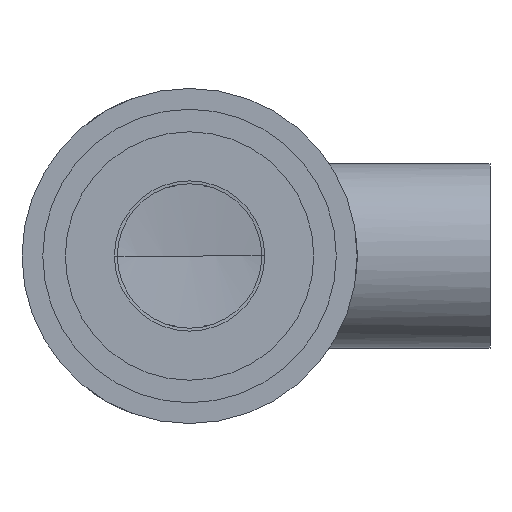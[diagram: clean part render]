
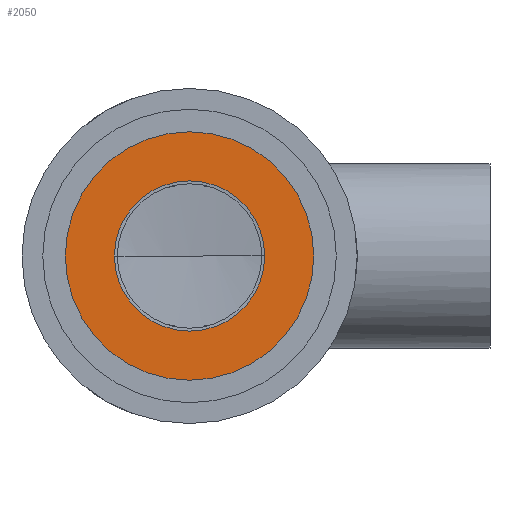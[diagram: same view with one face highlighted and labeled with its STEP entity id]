
A CAD part, front view. The second image highlights one B-rep face of the part: STEP entity #2050.
In plain terms, the highlighted planar face has unit normal (0, -1, 0).
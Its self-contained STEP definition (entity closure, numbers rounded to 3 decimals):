
#67 = ORIENTED_EDGE ( 'NONE', *, *, #1982, .T. ) ;
#86 = AXIS2_PLACEMENT_3D ( 'NONE', #2190, #687, #2421 ) ;
#124 = DIRECTION ( 'NONE',  ( 0., 1., 0. ) ) ;
#321 = ORIENTED_EDGE ( 'NONE', *, *, #2925, .F. ) ;
#573 = CARTESIAN_POINT ( 'NONE',  ( 0., -143.18, 6.5 ) ) ;
#687 = DIRECTION ( 'NONE',  ( 0., 1., 0. ) ) ;
#881 = DIRECTION ( 'NONE',  ( 0., 1., 0. ) ) ;
#897 = CIRCLE ( 'NONE', #2713, 6.5 ) ;
#985 = VERTEX_POINT ( 'NONE', #2675 ) ;
#1232 = EDGE_LOOP ( 'NONE', ( #67, #2531 ) ) ;
#1266 = DIRECTION ( 'NONE',  ( 0., 1., 0. ) ) ;
#1302 = DIRECTION ( 'NONE',  ( 0., 0., -1. ) ) ;
#1412 = ORIENTED_EDGE ( 'NONE', *, *, #1629, .F. ) ;
#1480 = VERTEX_POINT ( 'NONE', #573 ) ;
#1543 = CARTESIAN_POINT ( 'NONE',  ( -11.5, -143.18, 0. ) ) ;
#1567 = CARTESIAN_POINT ( 'NONE',  ( 0., -143.18, -6.5 ) ) ;
#1597 = EDGE_LOOP ( 'NONE', ( #321, #1412 ) ) ;
#1625 = CARTESIAN_POINT ( 'NONE',  ( 0., -143.18, 0. ) ) ;
#1629 = EDGE_CURVE ( 'NONE', #985, #2242, #2450, .T. ) ;
#1690 = CIRCLE ( 'NONE', #2109, 6.5 ) ;
#1877 = DIRECTION ( 'NONE',  ( 0., 0., 1. ) ) ;
#1982 = EDGE_CURVE ( 'NONE', #1480, #2103, #1690, .T. ) ;
#2050 = ADVANCED_FACE ( 'NONE', ( #2679, #2120 ), #2528, .T. ) ;
#2103 = VERTEX_POINT ( 'NONE', #1567 ) ;
#2109 = AXIS2_PLACEMENT_3D ( 'NONE', #2753, #1266, #2989 ) ;
#2120 = FACE_OUTER_BOUND ( 'NONE', #1597, .T. ) ;
#2190 = CARTESIAN_POINT ( 'NONE',  ( 0., -143.18, 0. ) ) ;
#2242 = VERTEX_POINT ( 'NONE', #2898 ) ;
#2365 = CARTESIAN_POINT ( 'NONE',  ( 0., -143.18, 0. ) ) ;
#2421 = DIRECTION ( 'NONE',  ( 0., 0., 1. ) ) ;
#2437 = AXIS2_PLACEMENT_3D ( 'NONE', #1543, #2789, #1302 ) ;
#2450 = CIRCLE ( 'NONE', #86, 11.5 ) ;
#2528 = PLANE ( 'NONE',  #2437 ) ;
#2531 = ORIENTED_EDGE ( 'NONE', *, *, #2915, .T. ) ;
#2538 = AXIS2_PLACEMENT_3D ( 'NONE', #2365, #881, #2600 ) ;
#2600 = DIRECTION ( 'NONE',  ( 0., 0., 1. ) ) ;
#2675 = CARTESIAN_POINT ( 'NONE',  ( 0., -143.18, -11.5 ) ) ;
#2679 = FACE_BOUND ( 'NONE', #1232, .T. ) ;
#2713 = AXIS2_PLACEMENT_3D ( 'NONE', #1625, #124, #1877 ) ;
#2753 = CARTESIAN_POINT ( 'NONE',  ( 0., -143.18, 0. ) ) ;
#2789 = DIRECTION ( 'NONE',  ( 0., -1., 0. ) ) ;
#2798 = CIRCLE ( 'NONE', #2538, 11.5 ) ;
#2898 = CARTESIAN_POINT ( 'NONE',  ( 0., -143.18, 11.5 ) ) ;
#2915 = EDGE_CURVE ( 'NONE', #2103, #1480, #897, .T. ) ;
#2925 = EDGE_CURVE ( 'NONE', #2242, #985, #2798, .T. ) ;
#2989 = DIRECTION ( 'NONE',  ( 0., 0., 1. ) ) ;
